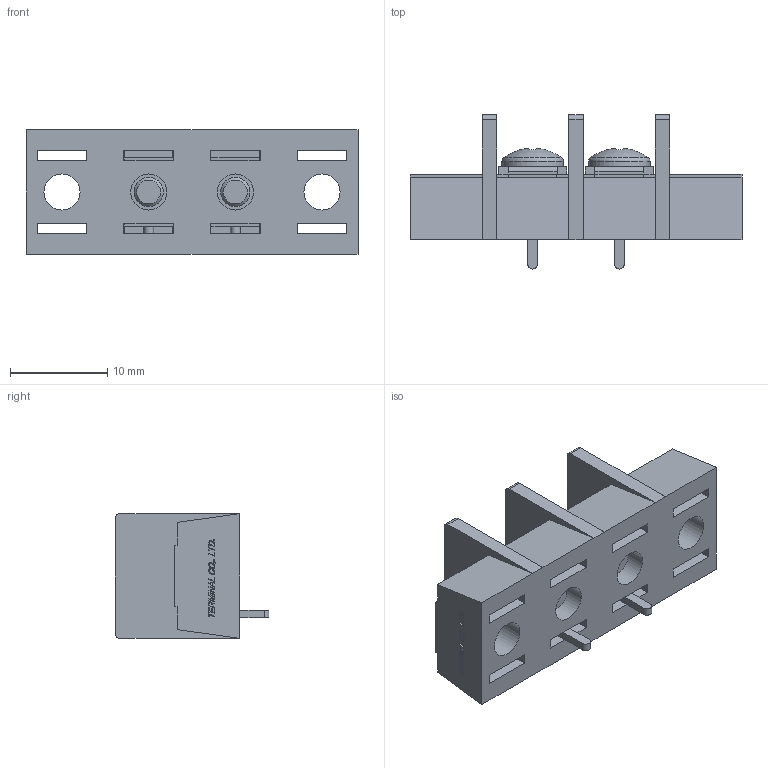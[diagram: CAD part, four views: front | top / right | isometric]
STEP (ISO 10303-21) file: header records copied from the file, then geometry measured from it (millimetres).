
FILE_DESCRIPTION(/* description */ ('Alibre Inc.'),/* implementation_level */ '2;1');
FILE_NAME(/* name */ 'export0',/* time_stamp */ '2015-10-20T19:47:35+09:00',/* author */ (''),/* organization */ (''),/* preprocessor_version */ 'ST-DEVELOPER v14',/* originating_system */ 'Alibre',/* authorisation */ '');
FILE_SCHEMA (('CONFIG_CONTROL_DESIGN'));
Length unit declared in the file: centimetre
Products named in the file (1): ID_1
Bounding box: 34.07 x 15.8 x 12.8 mm (x, y, z)
Volume: 2719 mm3; surface area: 3377.9 mm2
Topology: 1 solids, 35 shells, 974 faces, 2536 edges, 1682 vertices
Faces by surface type: plane 724, bspline 208, cylinder 26, cone 10, torus 4, sphere 2
Full cylindrical faces by diameter (mm): 3 x4, 3.7 x4, 4.6 x4, 6.3 x2
Entity records: 28641 total; most frequent: CARTESIAN_POINT 7029, ORIENTED_EDGE 5016, DIRECTION 2922, EDGE_CURVE 2508, VECTOR 1956, LINE 1956, VERTEX_POINT 1674, EDGE_LOOP 1084
